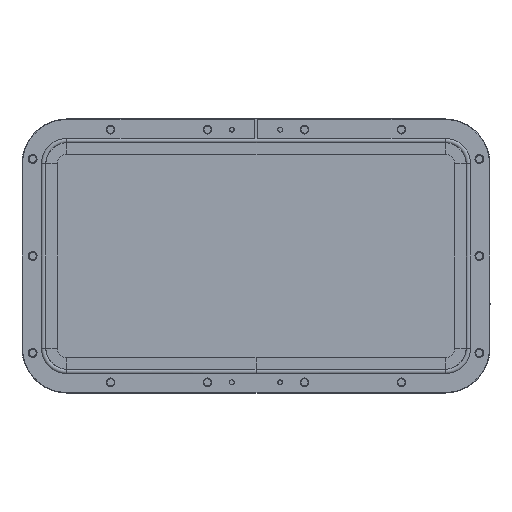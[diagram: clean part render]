
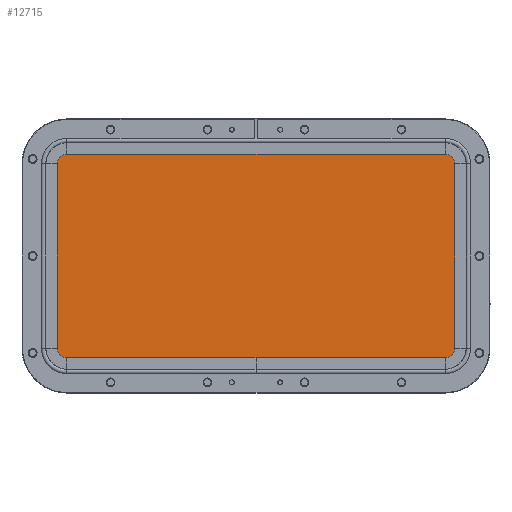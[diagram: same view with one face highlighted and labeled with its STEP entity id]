
A CAD part, front view. The second image highlights one B-rep face of the part: STEP entity #12715.
In plain terms, the highlighted planar face has unit normal (0, -1, 0).
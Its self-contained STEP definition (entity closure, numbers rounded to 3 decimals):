
#38 = EDGE_LOOP ( 'NONE', ( #7552, #28945, #2595, #2958, #23759, #8691, #22370, #8317 ) ) ;
#925 = DIRECTION ( 'NONE',  ( 0., 1., 0. ) ) ;
#1635 = AXIS2_PLACEMENT_3D ( 'NONE', #18398, #4670, #7096 ) ;
#2147 = CARTESIAN_POINT ( 'NONE',  ( -195., 0., 120.8 ) ) ;
#2332 = CARTESIAN_POINT ( 'NONE',  ( 220.8, 0., 95. ) ) ;
#2571 = EDGE_CURVE ( 'NONE', #29567, #25277, #16796, .T. ) ;
#2595 = ORIENTED_EDGE ( 'NONE', *, *, #19425, .T. ) ;
#2958 = ORIENTED_EDGE ( 'NONE', *, *, #14170, .T. ) ;
#2977 = CARTESIAN_POINT ( 'NONE',  ( -195., 0., 95. ) ) ;
#3280 = PLANE ( 'NONE',  #28789 ) ;
#4670 = DIRECTION ( 'NONE',  ( 0., -1., 0. ) ) ;
#5149 = CARTESIAN_POINT ( 'NONE',  ( -195., 0., -120.8 ) ) ;
#5226 = AXIS2_PLACEMENT_3D ( 'NONE', #6392, #29235, #24714 ) ;
#5762 = CARTESIAN_POINT ( 'NONE',  ( -195., 0., -95. ) ) ;
#6060 = DIRECTION ( 'NONE',  ( 0., 0., 1. ) ) ;
#6090 = LINE ( 'NONE', #2147, #18328 ) ;
#6128 = VERTEX_POINT ( 'NONE', #11587 ) ;
#6168 = DIRECTION ( 'NONE',  ( 0., 0., -1. ) ) ;
#6392 = CARTESIAN_POINT ( 'NONE',  ( 195., 0., 95. ) ) ;
#6865 = CIRCLE ( 'NONE', #5226, 25.8 ) ;
#7096 = DIRECTION ( 'NONE',  ( 0., 0., 1. ) ) ;
#7552 = ORIENTED_EDGE ( 'NONE', *, *, #14318, .T. ) ;
#7972 = CARTESIAN_POINT ( 'NONE',  ( -195., 0., 95. ) ) ;
#8317 = ORIENTED_EDGE ( 'NONE', *, *, #24105, .T. ) ;
#8472 = CARTESIAN_POINT ( 'NONE',  ( -195., 0., 120.8 ) ) ;
#8691 = ORIENTED_EDGE ( 'NONE', *, *, #15579, .T. ) ;
#8948 = LINE ( 'NONE', #20001, #20526 ) ;
#9003 = DIRECTION ( 'NONE',  ( -1., 0., 0. ) ) ;
#10267 = CARTESIAN_POINT ( 'NONE',  ( 195., 0., 120.8 ) ) ;
#10362 = CARTESIAN_POINT ( 'NONE',  ( -220.8, 0., -95. ) ) ;
#10458 = VECTOR ( 'NONE', #25581, 1000. ) ;
#11587 = CARTESIAN_POINT ( 'NONE',  ( 220.8, 0., -95. ) ) ;
#11784 = FACE_OUTER_BOUND ( 'NONE', #38, .T. ) ;
#12404 = AXIS2_PLACEMENT_3D ( 'NONE', #5762, #21808, #6060 ) ;
#12652 = CIRCLE ( 'NONE', #1635, 25.8 ) ;
#12715 = ADVANCED_FACE ( 'NONE', ( #11784 ), #3280, .F. ) ;
#13918 = EDGE_CURVE ( 'NONE', #18649, #20092, #6865, .T. ) ;
#14170 = EDGE_CURVE ( 'NONE', #6128, #18649, #27107, .T. ) ;
#14294 = CARTESIAN_POINT ( 'NONE',  ( 195., 0., -120.8 ) ) ;
#14318 = EDGE_CURVE ( 'NONE', #24597, #29953, #23836, .T. ) ;
#14563 = DIRECTION ( 'NONE',  ( 0., 0., 1. ) ) ;
#15579 = EDGE_CURVE ( 'NONE', #20092, #29567, #6090, .T. ) ;
#16796 = CIRCLE ( 'NONE', #25078, 25.8 ) ;
#17773 = EDGE_CURVE ( 'NONE', #29953, #19247, #19921, .T. ) ;
#18259 = CARTESIAN_POINT ( 'NONE',  ( -220.8, 0., 95. ) ) ;
#18328 = VECTOR ( 'NONE', #9003, 1000. ) ;
#18398 = CARTESIAN_POINT ( 'NONE',  ( 195., 0., -95. ) ) ;
#18649 = VERTEX_POINT ( 'NONE', #18977 ) ;
#18977 = CARTESIAN_POINT ( 'NONE',  ( 220.8, 0., 95. ) ) ;
#19131 = DIRECTION ( 'NONE',  ( 0., 0., 1. ) ) ;
#19247 = VERTEX_POINT ( 'NONE', #14294 ) ;
#19425 = EDGE_CURVE ( 'NONE', #19247, #6128, #12652, .T. ) ;
#19921 = LINE ( 'NONE', #23554, #20648 ) ;
#20001 = CARTESIAN_POINT ( 'NONE',  ( -220.8, 0., 95. ) ) ;
#20092 = VERTEX_POINT ( 'NONE', #10267 ) ;
#20526 = VECTOR ( 'NONE', #6168, 1000. ) ;
#20648 = VECTOR ( 'NONE', #23457, 1000. ) ;
#21808 = DIRECTION ( 'NONE',  ( 0., -1., 0. ) ) ;
#22370 = ORIENTED_EDGE ( 'NONE', *, *, #2571, .T. ) ;
#23457 = DIRECTION ( 'NONE',  ( 1., 0., 0. ) ) ;
#23554 = CARTESIAN_POINT ( 'NONE',  ( -195., 0., -120.8 ) ) ;
#23759 = ORIENTED_EDGE ( 'NONE', *, *, #13918, .T. ) ;
#23836 = CIRCLE ( 'NONE', #12404, 25.8 ) ;
#24105 = EDGE_CURVE ( 'NONE', #25277, #24597, #8948, .T. ) ;
#24597 = VERTEX_POINT ( 'NONE', #10362 ) ;
#24714 = DIRECTION ( 'NONE',  ( 0., 0., 1. ) ) ;
#25078 = AXIS2_PLACEMENT_3D ( 'NONE', #7972, #28772, #14563 ) ;
#25277 = VERTEX_POINT ( 'NONE', #18259 ) ;
#25581 = DIRECTION ( 'NONE',  ( 0., 0., 1. ) ) ;
#27107 = LINE ( 'NONE', #2332, #10458 ) ;
#28772 = DIRECTION ( 'NONE',  ( 0., -1., 0. ) ) ;
#28789 = AXIS2_PLACEMENT_3D ( 'NONE', #2977, #925, #19131 ) ;
#28945 = ORIENTED_EDGE ( 'NONE', *, *, #17773, .T. ) ;
#29235 = DIRECTION ( 'NONE',  ( 0., -1., 0. ) ) ;
#29567 = VERTEX_POINT ( 'NONE', #8472 ) ;
#29953 = VERTEX_POINT ( 'NONE', #5149 ) ;
